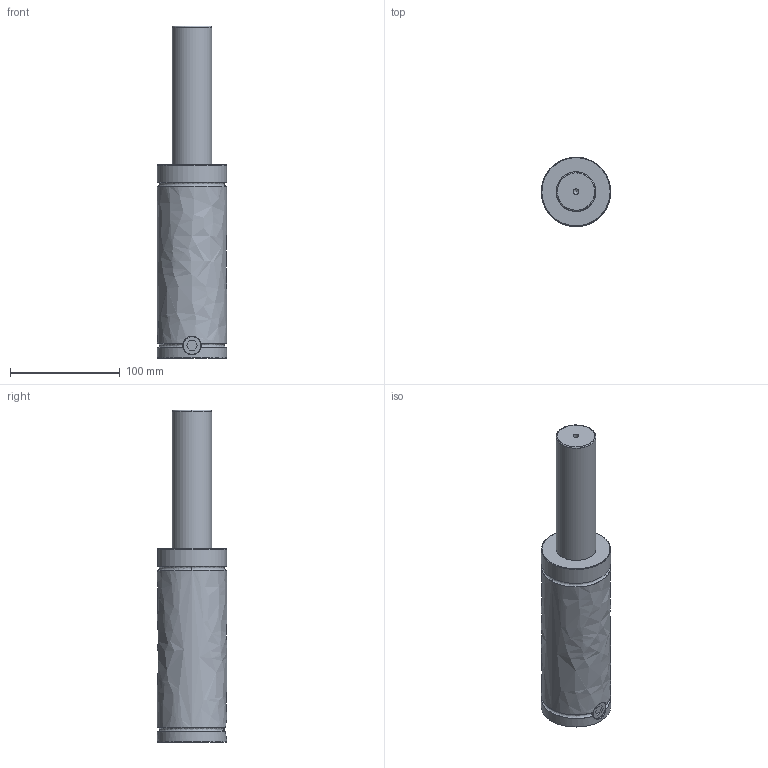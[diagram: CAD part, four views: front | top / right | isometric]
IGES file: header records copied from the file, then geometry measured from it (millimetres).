
Start section: VISI Layer Mapping Iges    VISI  0      LAYER_EMPTY  1      wwww  7      W_PD700  8      S_PD700  10     W_PD1000  11     S_PD1000  13     W_PD2000  14     S_PD2000  16     W_PD3000  17     S_PD3000  19     W_PD4000  20     S_PD4000  22     W_PD7000  23     S_PD7000  28     W_350  29     MS-350  30     MC-350  31     MP-350  32     MB-350  33     MH-350  34     MK-350  35     MPL-350  39     W_500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
Global section: file name: E:\だ錶臢\だ錶臢3D\SYLINDER\PT Series\PT1500\PT1500\PT1500-125.igs; native system: VISI 16.0; preprocessor: 2.0; author: 11; organization: 0; date: 500.; units: mil
Bounding box: 63 x 63 x 302 mm (x, y, z)
Surface area: 58086.7 mm2 (no closed solid volume)
Topology: 0 solids, 0 shells, 33 faces, 476 edges, 450 vertices
Faces by surface type: bspline 33
